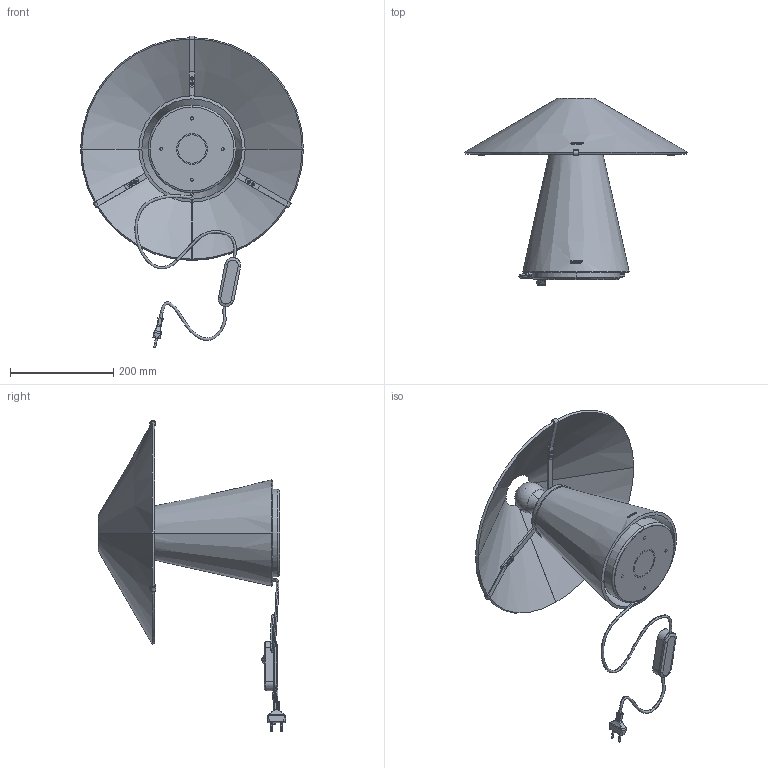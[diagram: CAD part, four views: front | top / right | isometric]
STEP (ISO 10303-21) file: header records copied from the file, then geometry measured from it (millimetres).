
FILE_DESCRIPTION (( 'STEP AP203' ), '1' );
FILE_NAME ('UpGlas Table 1.STEP', '2025-06-05T07:48:45', ( '' ), ( '' ), 'SwSTEP 2.0', 'SolidWorks 2024', '' );
FILE_SCHEMA (( 'CONFIG_CONTROL_DESIGN' ));
Length unit declared in the file: millimetre
Products named in the file (17): Vite a Testa Svasata Piana Cava Esagonale UNI-5933_VITE M3X6 TSPCE UNI-5933; ATC-A07-T082-R00; Lamp. E27 Led Parathon Retrofit CL A_LAMPADINA E27 CL A 60 6W 827; ATC-A07-T002-R00_Default<A macchina>; UpGlas Table 1; ATC-A07-T006-R01; ATC-A07-T001-R00; ATC-A07-T009-R01; Viti a Testa Bombata e Cava Esagonale ISO-7380_VITE M3X6 TBCE ISO-7380 ; Portalampada a Scatto  - Arditi E27 210°C_R. NERO; ATC-A07-T008-R01; ATC-A07-T080-R00_Default<A macchina>; ATC-A07-T005-R02; Ghiera Ø50 h.12 per Portalampada E27; ATC-A07-T000-R03; Camicia E27 a Scatto - Arditi_R. NERO; ATC-A07-T007-R01
Assembly tree (29 placements, depth 3):
  UpGlas Table 1
    Portalampada a Scatto  - Arditi E27 210°C_R. NERO
      Camicia E27 a Scatto - Arditi_R. NERO
    Lamp. E27 Led Parathon Retrofit CL A_LAMPADINA E27 CL A 60 6W 827
    Vite a Testa Svasata Piana Cava Esagonale UNI-5933_VITE M3X6 TSPCE UNI-5933  x10
    Viti a Testa Bombata e Cava Esagonale ISO-7380_VITE M3X6 TBCE ISO-7380   x2
    Ghiera Ø50 h.12 per Portalampada E27
    ATC-A07-T002-R00_Default<A macchina>
    ATC-A07-T001-R00
    ATC-A07-T000-R03
    ATC-A07-T080-R00_Default<A macchina>
    ATC-A07-T009-R01
    ATC-A07-T005-R02
    ATC-A07-T006-R01  x3
    ATC-A07-T007-R01  x2
    ATC-A07-T008-R01
    ATC-A07-T082-R00
Bounding box: 432.69 x 363.28 x 605.19 mm (x, y, z)
Volume: 1798899.2 mm3; surface area: 839217.3 mm2
Topology: 41 solids, 42 shells, 1299 faces, 3173 edges, 2005 vertices
Faces by surface type: plane 547, cylinder 355, bspline 184, cone 141, torus 60, sphere 12
Entity records: 77224 total; most frequent: CARTESIAN_POINT 51828, ORIENTED_EDGE 5202, DIRECTION 4271, EDGE_CURVE 2601, VERTEX_POINT 1667, AXIS2_PLACEMENT_3D 1491, LINE 1289, VECTOR 1289
